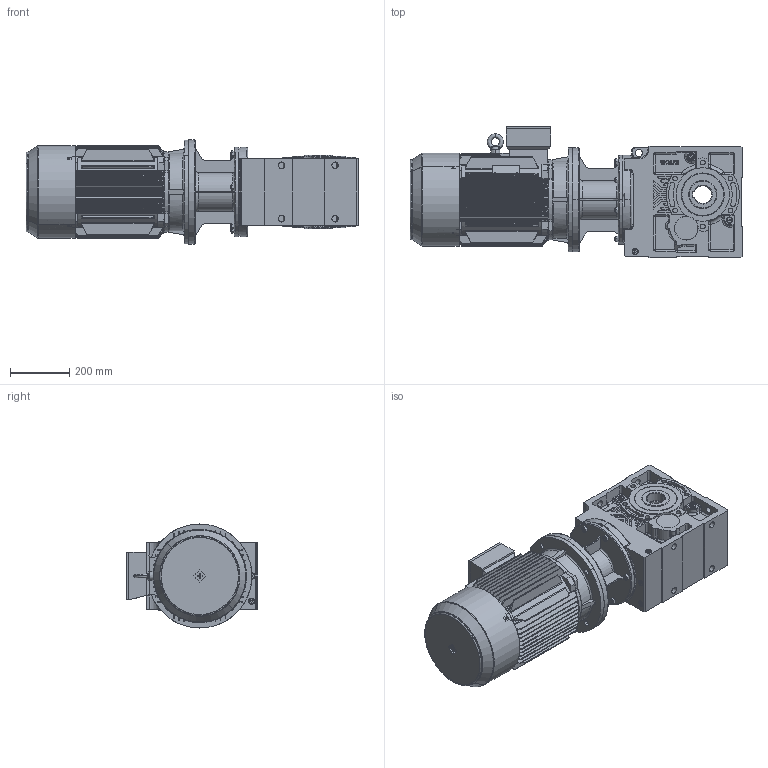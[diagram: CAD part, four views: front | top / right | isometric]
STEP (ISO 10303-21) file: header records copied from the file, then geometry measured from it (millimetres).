
FILE_DESCRIPTION (( 'STEP AP203' ), '1' );
FILE_NAME ('KV_573_0_M3-160L-4.STEP', '2019-07-18T11:55:47', ( '' ), ( '' ), 'SwSTEP 2.0', 'SolidWorks 2012', '' );
FILE_SCHEMA (( 'CONFIG_CONTROL_DESIGN' ));
Length unit declared in the file: millimetre
Products named in the file (15): K573_Varsayìlan; ML59A_Varsayìlan; KN_57_3_0_A-B16_B5_ML59A_0_0_0_0_0_0_0_0_0_0_0_0_M1; 53160B5_Varsayìlan; M3-160L-FF-B5; KV_573_0_M3-160L-4; +¦i-MN2-160_-++ñ; Eyebolts GB_GB_FASTENER_SCREWS_FRS M12N; Y2-160_shaft; Y2-160-2ª¥--®+_-++ñ; +ª+§ªiY2-160ñ»ª­_-++ñ; Y2-160L+À+¿(B5)_-++ñ; Y2-160-4Ý¾6Ý¾8-ª+---®+_-++ñ; Y2-160ñ»ª­+¿_-++ñ; Y2-160-180ñ»ª­®+_-++ñ
Assembly tree (14 placements, depth 4):
  KV_573_0_M3-160L-4
    KN_57_3_0_A-B16_B5_ML59A_0_0_0_0_0_0_0_0_0_0_0_0_M1
      K573_Varsayìlan
      53160B5_Varsayìlan
      ML59A_Varsayìlan
    M3-160L-FF-B5
      +ª+§ªiY2-160ñ»ª­_-++ñ
        Y2-160-180ñ»ª­®+_-++ñ
        Y2-160ñ»ª­+¿_-++ñ
      Y2-160-4Ý¾6Ý¾8-ª+---®+_-++ñ
      Y2-160L+À+¿(B5)_-++ñ
      Eyebolts GB_GB_FASTENER_SCREWS_FRS M12N
      Y2-160-2ª¥--®+_-++ñ
      +¦i-MN2-160_-++ñ
      Y2-160_shaft
Bounding box: 1117 x 441.5 x 350 mm (x, y, z)
Volume: 40774785.2 mm3; surface area: 4058585.6 mm2
Topology: 11 solids, 11 shells, 2926 faces, 7673 edges, 4858 vertices
Faces by surface type: plane 1142, cylinder 1051, cone 256, bspline 237, torus 154, sphere 86
Entity records: 137082 total; most frequent: CARTESIAN_POINT 66662, ORIENTED_EDGE 15040, DIRECTION 13268, EDGE_CURVE 7520, AXIS2_PLACEMENT_3D 4835, VERTEX_POINT 4801, LINE 3598, VECTOR 3598
